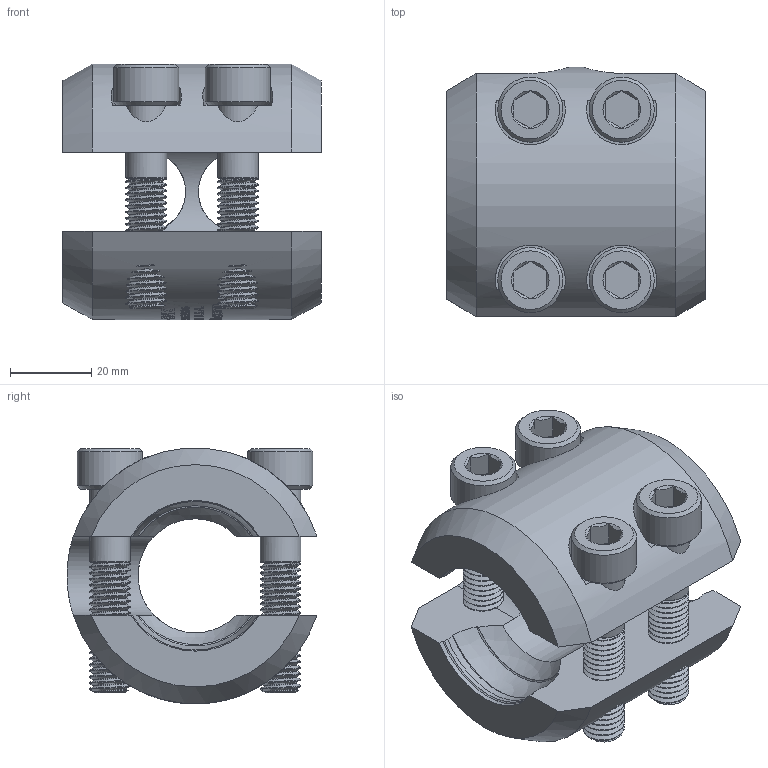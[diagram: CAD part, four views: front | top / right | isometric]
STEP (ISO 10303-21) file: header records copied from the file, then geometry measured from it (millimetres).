
FILE_DESCRIPTION(/* description */ (''),/* implementation_level */ '2;1');
FILE_NAME(/* name */ 'C:\Users\owner\Desktop\HDPL SERIES\PL-HDKNUCKLE.stp',/* time_stamp */ '2017-09-29T16:39:42-04:00',/* author */ ('owner'),/* organization */ (''),/* preprocessor_version */ 'ST-DEVELOPER v16.5',/* originating_system */ 'Autodesk Inventor 2017',/* authorisation */ '');
FILE_SCHEMA (('CONFIG_CONTROL_DESIGN'));
Length unit declared in the file: inch
Products named in the file (3): PL-HDKNUCKLE; 60064; #91292
Assembly tree (5 placements, depth 2):
  PL-HDKNUCKLE
    60064
    #91292  x4
Bounding box: 63.5 x 61.39 x 62.83 mm (x, y, z)
Volume: 116051.5 mm3; surface area: 35411.2 mm2
Topology: 5 solids, 5 shells, 978 faces, 2656 edges, 1754 vertices
Faces by surface type: plane 401, bspline 319, cylinder 186, cone 44, torus 16, sphere 12
Full cylindrical faces by diameter (mm): 8.382 x4, 10 x84, 10.795 x4, 16 x4
Entity records: 37063 total; most frequent: CARTESIAN_POINT 18020, ORIENTED_EDGE 4422, DIRECTION 3088, EDGE_CURVE 2211, VERTEX_POINT 1476, AXIS2_PLACEMENT_3D 1038, LINE 1012, VECTOR 1012
